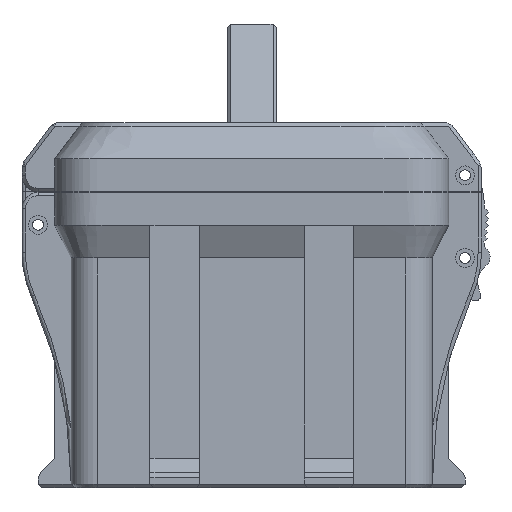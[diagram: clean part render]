
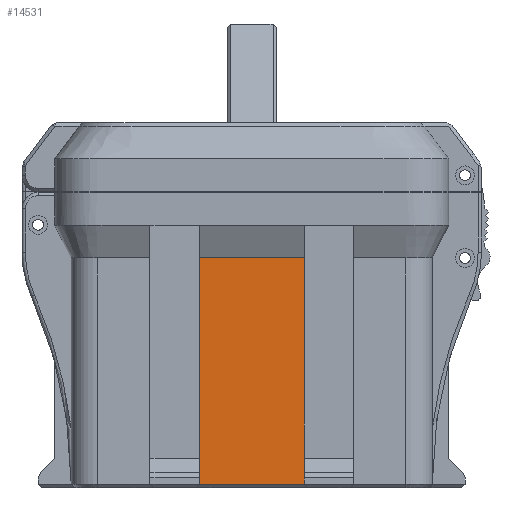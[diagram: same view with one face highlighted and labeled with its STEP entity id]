
A CAD part, left-side view. The second image highlights one B-rep face of the part: STEP entity #14531.
In plain terms, the highlighted planar face has unit normal (-1, 0, 0).
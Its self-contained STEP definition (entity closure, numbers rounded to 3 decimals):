
#1463=FACE_OUTER_BOUND('',#2342,.T.);
#2342=EDGE_LOOP('',(#10823,#10824,#10825,#10826));
#3030=LINE('',#20976,#4509);
#3339=LINE('',#23717,#4818);
#3421=LINE('',#24031,#4900);
#3423=LINE('',#24041,#4902);
#4509=VECTOR('',#16722,10.);
#4818=VECTOR('',#17727,10.);
#4900=VECTOR('',#17921,10.);
#4902=VECTOR('',#17927,10.);
#5981=VERTEX_POINT('',#20973);
#5982=VERTEX_POINT('',#20975);
#6334=VERTEX_POINT('',#23716);
#6372=VERTEX_POINT('',#24030);
#7344=EDGE_CURVE('',#5982,#5981,#3030,.T.);
#7893=EDGE_CURVE('',#6334,#5981,#3339,.T.);
#7986=EDGE_CURVE('',#5982,#6372,#3421,.T.);
#7989=EDGE_CURVE('',#6334,#6372,#3423,.T.);
#10823=ORIENTED_EDGE('',*,*,#7893,.F.);
#10824=ORIENTED_EDGE('',*,*,#7989,.T.);
#10825=ORIENTED_EDGE('',*,*,#7986,.F.);
#10826=ORIENTED_EDGE('',*,*,#7344,.T.);
#13917=PLANE('',#15670);
#14531=ADVANCED_FACE('',(#1463),#13917,.T.);
#15670=AXIS2_PLACEMENT_3D('',#24040,#17925,#17926);
#16722=DIRECTION('',(0.,0.,-1.));
#17727=DIRECTION('',(0.,1.,0.));
#17921=DIRECTION('',(0.,-1.,0.));
#17925=DIRECTION('center_axis',(-1.,0.,0.));
#17926=DIRECTION('ref_axis',(0.,-1.,0.));
#17927=DIRECTION('',(0.,0.,1.));
#20973=CARTESIAN_POINT('',(-90.,16.,1.));
#20975=CARTESIAN_POINT('',(-90.,16.,70.));
#20976=CARTESIAN_POINT('',(-90.,16.,20.));
#23716=CARTESIAN_POINT('',(-90.,-16.,1.));
#23717=CARTESIAN_POINT('',(-90.,27.5,1.));
#24030=CARTESIAN_POINT('',(-90.,-16.,70.));
#24031=CARTESIAN_POINT('',(-90.,55.,70.));
#24040=CARTESIAN_POINT('Origin',(-90.,55.,0.));
#24041=CARTESIAN_POINT('',(-90.,-16.,20.));
